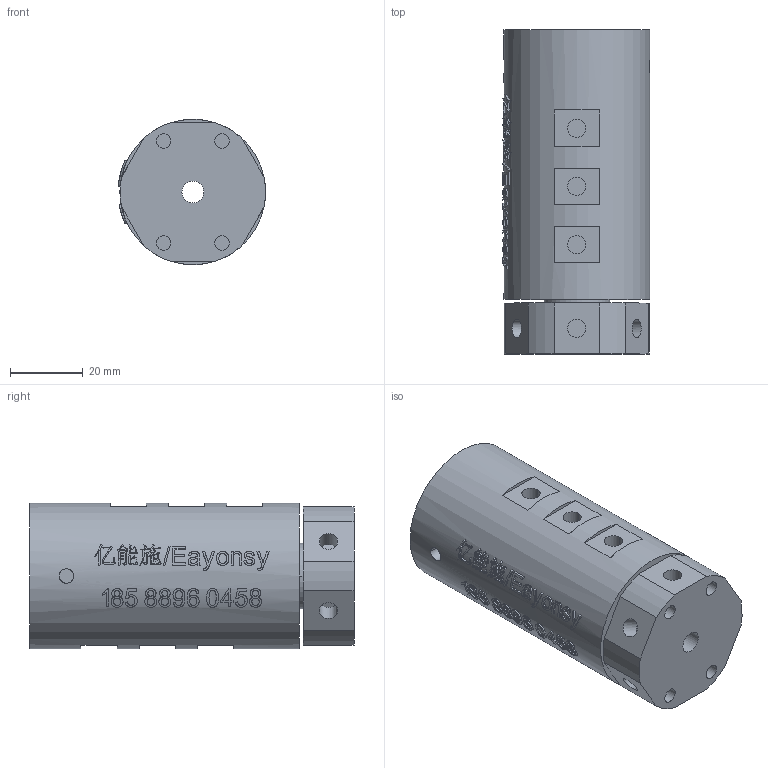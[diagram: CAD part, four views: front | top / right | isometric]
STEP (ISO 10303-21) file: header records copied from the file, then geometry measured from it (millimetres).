
FILE_DESCRIPTION(/* description */ (''),/* implementation_level */ '2;1');
FILE_NAME(/* name */ 'HQ06005.stp',/* time_stamp */ '2025-01-20T09:57:56+08:00',/* author */ (''),/* organization */ (''),/* preprocessor_version */ 'ST-DEVELOPER v16.7',/* originating_system */ 'SIEMENS PLM Software NX 12.0',/* authorisation */ '');
FILE_SCHEMA (('AUTOMOTIVE_DESIGN { 1 0 10303 214 3 1 1 1 }'));
Length unit declared in the file: millimetre
Products named in the file (1): HX052ED0A5C5d42w
Bounding box: 40.44 x 89 x 40 mm (x, y, z)
Volume: 104708.2 mm3; surface area: 20347.4 mm2
Topology: 1 solids, 1 shells, 422 faces, 1040 edges, 700 vertices
Faces by surface type: plane 242, extrusion 88, cylinder 63, bspline 29
Full cylindrical faces by diameter (mm): 4 x10, 5 x9, 6 x1, 40 x1
Entity records: 29664 total; most frequent: CARTESIAN_POINT 20826, ORIENTED_EDGE 1974, DIRECTION 1344, EDGE_CURVE 987, VERTEX_POINT 686, B_SPLINE_CURVE_WITH_KNOTS 663, EDGE_LOOP 543, AXIS2_PLACEMENT_3D 538
